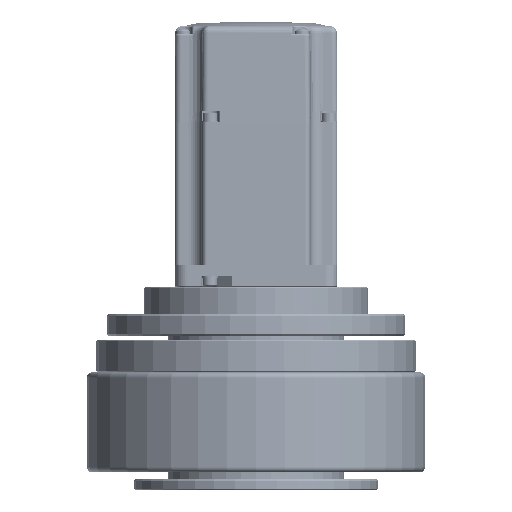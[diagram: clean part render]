
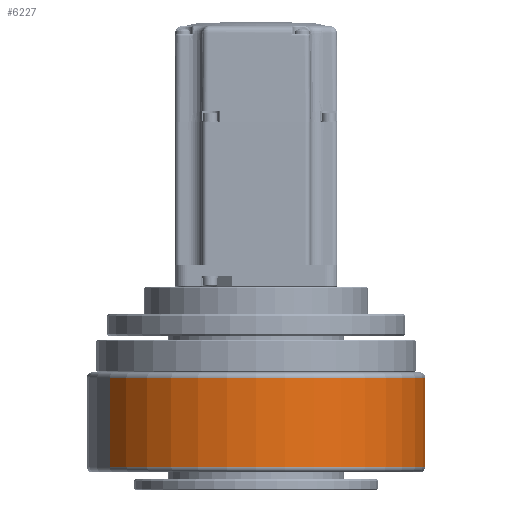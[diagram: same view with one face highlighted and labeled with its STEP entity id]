
A CAD part, front view. The second image highlights one B-rep face of the part: STEP entity #6227.
In plain terms, the highlighted cylindrical face has radius 62.5 mm (diameter 125 mm), a partial arc.
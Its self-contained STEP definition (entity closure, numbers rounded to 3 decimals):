
#1974=CARTESIAN_POINT('',(35.,0.,0.));
#1975=DIRECTION('',(-1.,0.,0.));
#1976=DIRECTION('',(0.,0.,1.));
#1977=AXIS2_PLACEMENT_3D('',#1974,#1975,#1976);
#1989=DIRECTION('',(-1.,0.,0.));
#1990=VECTOR('',#1989,33.);
#1991=CARTESIAN_POINT('',(35.,0.,-62.5));
#1992=LINE('',#1991,#1990);
#1993=DIRECTION('',(-1.,0.,0.));
#1994=VECTOR('',#1993,33.);
#1995=CARTESIAN_POINT('',(35.,0.,62.5));
#1996=LINE('',#1995,#1994);
#1997=CARTESIAN_POINT('',(2.,0.,0.));
#1998=DIRECTION('',(1.,0.,0.));
#1999=DIRECTION('',(0.,0.,-1.));
#2000=AXIS2_PLACEMENT_3D('',#1997,#1998,#1999);
#4739=CARTESIAN_POINT('',(35.,0.,62.5));
#4740=VERTEX_POINT('',#4739);
#4741=CARTESIAN_POINT('',(35.,0.,-62.5));
#4742=VERTEX_POINT('',#4741);
#4743=CARTESIAN_POINT('',(2.,0.,-62.5));
#4744=VERTEX_POINT('',#4743);
#4745=CARTESIAN_POINT('',(2.,0.,62.5));
#4746=VERTEX_POINT('',#4745);
#6215=CARTESIAN_POINT('',(0.,0.,0.));
#6216=DIRECTION('',(-1.,0.,0.));
#6217=DIRECTION('',(0.,0.,1.));
#6218=AXIS2_PLACEMENT_3D('',#6215,#6216,#6217);
#6219=CYLINDRICAL_SURFACE('',#6218,62.5);
#6220=ORIENTED_EDGE('',*,*,#6180,.F.);
#6221=ORIENTED_EDGE('',*,*,#6209,.T.);
#6223=ORIENTED_EDGE('',*,*,#6222,.F.);
#6224=ORIENTED_EDGE('',*,*,#6205,.F.);
#6225=EDGE_LOOP('',(#6220,#6221,#6223,#6224));
#6226=FACE_OUTER_BOUND('',#6225,.F.);
#6227=ADVANCED_FACE('',(#6226),#6219,.T.);
#1978=CIRCLE('',#1977,62.5);
#2001=CIRCLE('',#2000,62.5);
#6180=EDGE_CURVE('',#4740,#4742,#1978,.T.);
#6205=EDGE_CURVE('',#4742,#4744,#1992,.T.);
#6209=EDGE_CURVE('',#4740,#4746,#1996,.T.);
#6222=EDGE_CURVE('',#4744,#4746,#2001,.T.);
